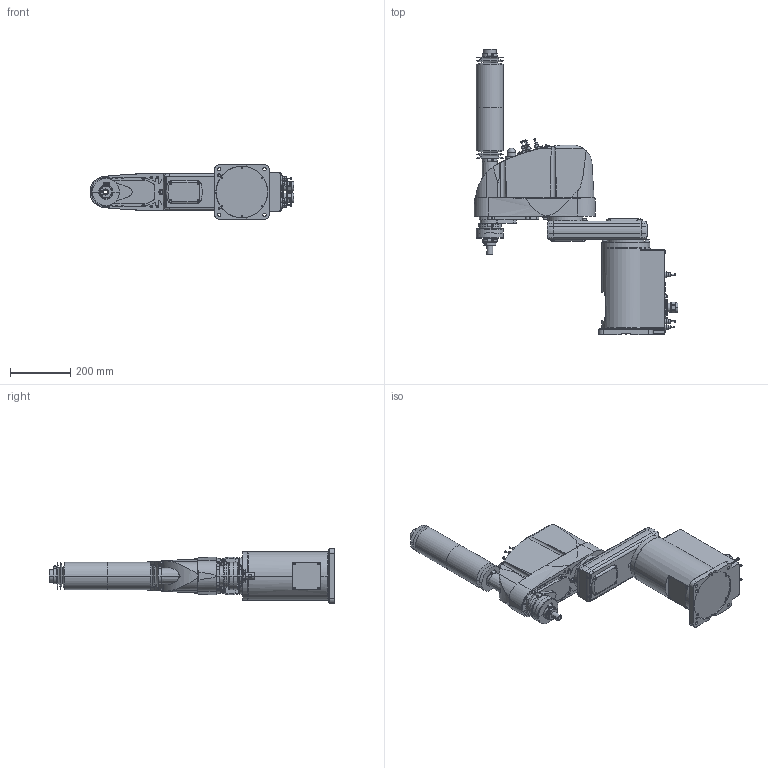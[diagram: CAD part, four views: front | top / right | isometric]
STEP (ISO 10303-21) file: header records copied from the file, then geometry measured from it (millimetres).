
FILE_DESCRIPTION( ( '' ), '1' );
FILE_NAME( '//expscmdclustefs.cadenas.external/client_exchange/iodir/jobs/output/wkb51513434_no0/STEP/G6_453D_2_14b.stp', '2012-11-22T16:03:55', ( '' ), ( '' ), ' ', ' ', ' ' );
FILE_SCHEMA( ( 'automotive_design' ) );
Length unit declared in the file: millimetre
Products named in the file (8): 1; 2; 3; 4; 5; 6; 7; 8
Bounding box: 674 x 945.5 x 180 mm (x, y, z)
Volume: 21777854 mm3; surface area: 1119488 mm2
Topology: 8 solids, 8 shells, 1811 faces, 4351 edges, 2767 vertices
Faces by surface type: plane 860, cylinder 628, cone 282, torus 40, sphere 1
Entity records: 106101 total; most frequent: CARTESIAN_POINT 12922, DIRECTION 9320, STYLED_ITEM 8907, PRESENTATION_STYLE_ASSIGNMENT 8907, COLOUR_RGB 8907, ORIENTED_EDGE 8642, EDGE_CURVE 4321, CURVE_STYLE 4321
